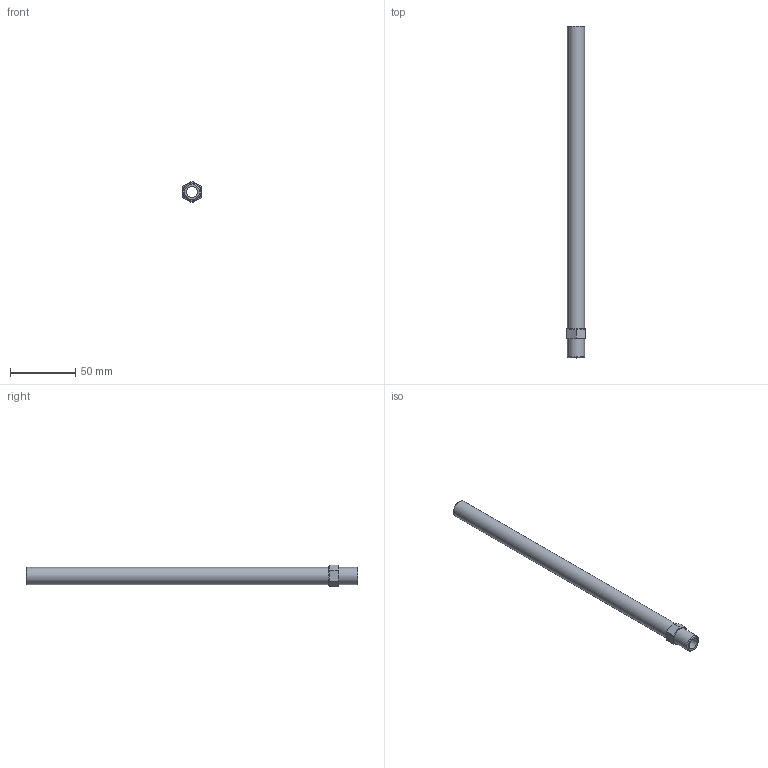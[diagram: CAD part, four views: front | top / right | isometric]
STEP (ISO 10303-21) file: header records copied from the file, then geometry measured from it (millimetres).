
FILE_DESCRIPTION(/* description */ (''),/* implementation_level */ '2;1');
FILE_NAME(/* name */ 'C:/Users/drich/Desktop/APN14-10 v1.step',/* time_stamp */ '2019-12-27T17:45:27-06:00',/* author */ (''),/* organization */ (''),/* preprocessor_version */ 'ST-DEVELOPER v18',/* originating_system */ 'Autodesk Translation Framework v8.12.0.6',/* authorisation */ '');
FILE_SCHEMA (('AUTOMOTIVE_DESIGN { 1 0 10303 214 3 1 1 }'));
Length unit declared in the file: inch
Products named in the file (1): APN14-10
Bounding box: 14.27 x 254 x 16.48 mm (x, y, z)
Volume: 19035.5 mm3; surface area: 17590.7 mm2
Topology: 1 solids, 1 shells, 17 faces, 39 edges, 26 vertices
Faces by surface type: plane 10, cone 4, cylinder 3
Full cylindrical faces by diameter (mm): 8.712 x1, 13.032 x2
Entity records: 521 total; most frequent: CARTESIAN_POINT 107, ORIENTED_EDGE 78, DIRECTION 77, EDGE_CURVE 39, AXIS2_PLACEMENT_3D 32, VERTEX_POINT 26, EDGE_LOOP 21, FACE_OUTER_BOUND 17
